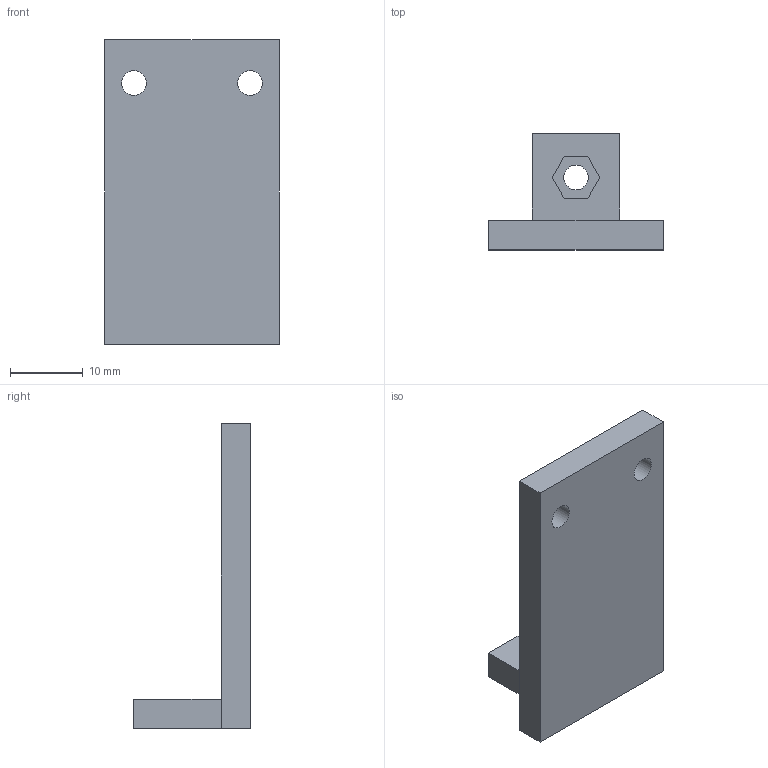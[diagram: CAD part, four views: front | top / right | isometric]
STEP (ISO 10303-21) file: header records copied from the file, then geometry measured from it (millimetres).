
FILE_DESCRIPTION(('Open CASCADE Model'),'2;1');
FILE_NAME('Open CASCADE Shape Model','2026-11-26T11:36:20',('Author'),( 'Open CASCADE'),'Open CASCADE STEP processor 8.0','build123d', 'Unknown');
FILE_SCHEMA(('AUTOMOTIVE_DESIGN { 1 0 10303 214 1 1 1 1 }'));
Length unit declared in the file: millimetre
Products named in the file (2): =>[0:1:1:2]; COMPOUND
Assembly tree (1 placements, depth 2):
  =>[0:1:1:2]
    COMPOUND
Bounding box: 24 x 16 x 42 mm (x, y, z)
Volume: 4449.5 mm3; surface area: 3025.3 mm2
Topology: 1 solids, 1 shells, 20 faces, 51 edges, 34 vertices
Faces by surface type: plane 17, cylinder 3
Full cylindrical faces by diameter (mm): 3.4 x3
Entity records: 1298 total; most frequent: CARTESIAN_POINT 215, DIRECTION 197, LINE 135, VECTOR 135, ORIENTED_EDGE 102, PCURVE 102, DEFINITIONAL_REPRESENTATION 102, EDGE_CURVE 51
